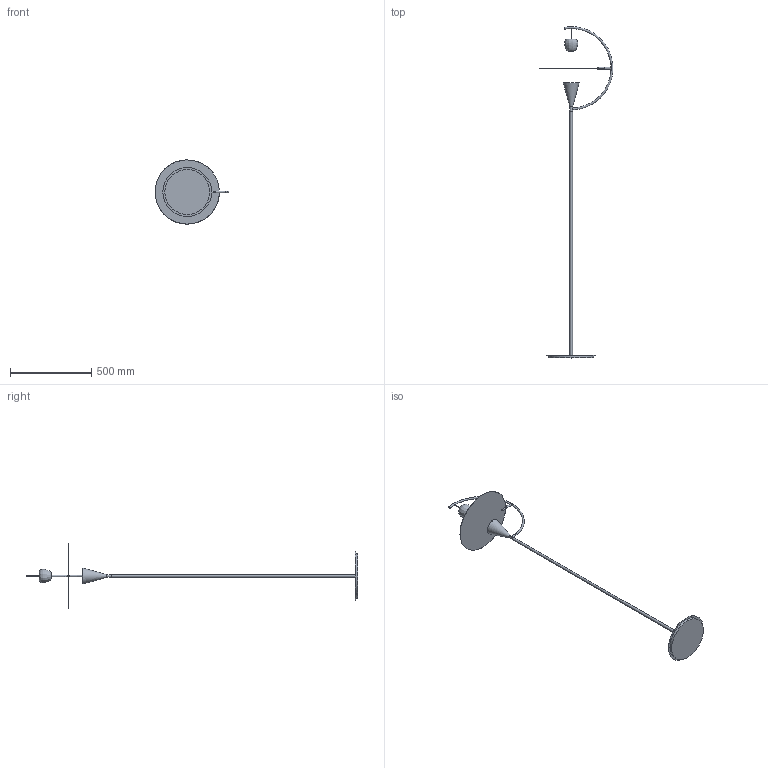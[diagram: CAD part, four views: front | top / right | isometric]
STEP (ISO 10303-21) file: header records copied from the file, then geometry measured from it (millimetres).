
FILE_DESCRIPTION (( 'STEP AP203' ), '1' );
FILE_NAME ('3d_Newton.STEP', '2021-03-08T17:50:57', ( 'Margherita' ), ( 'Hewlett-Packard Company' ), 'SwSTEP 2.0', 'SolidWorks 2016', '' );
FILE_SCHEMA (( 'CONFIG_CONTROL_DESIGN' ));
Length unit declared in the file: millimetre
Products named in the file (1): 3d_Newton
Bounding box: 453.47 x 2039.38 x 394.98 mm (x, y, z)
Volume: 1921925.9 mm3; surface area: 596831.5 mm2
Topology: 2 solids, 2 shells, 42 faces, 90 edges, 57 vertices
Faces by surface type: plane 16, cylinder 11, cone 6, torus 4, sphere 3, bspline 2
Full cylindrical faces by diameter (mm): 3 x1, 12 x3, 16 x2, 75 x1, 275 x1, 300 x1, 395 x1
Entity records: 2487 total; most frequent: CARTESIAN_POINT 1692, DIRECTION 156, ORIENTED_EDGE 102, AXIS2_PLACEMENT_3D 74, EDGE_LOOP 72, FACE_OUTER_BOUND 57, EDGE_CURVE 51, VERTEX_POINT 43
